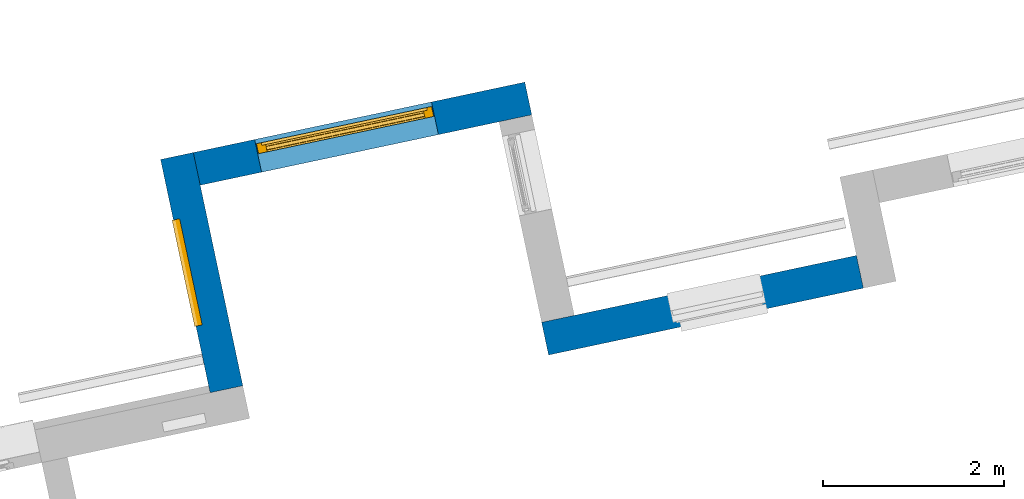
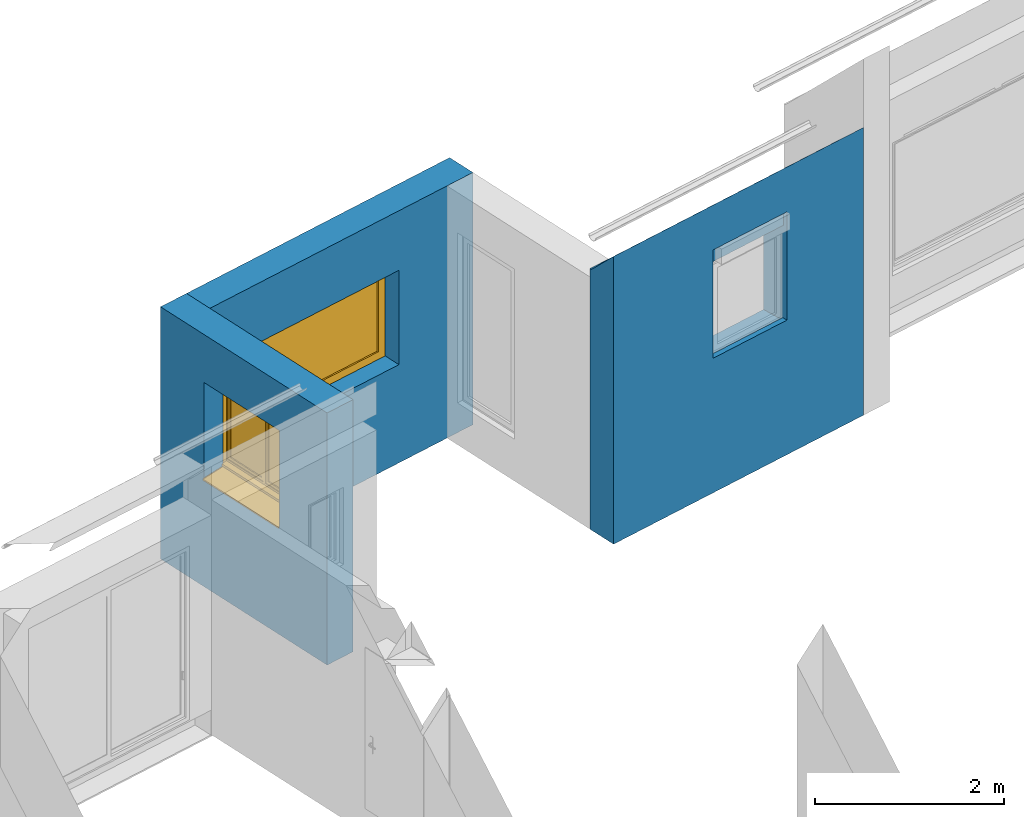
"""IFC2X3 building model written with IfcOpenShell, lengths in centimetres."""

from ifc_helpers import new_model, entity, si_unit, converted_unit, derived_unit, direction, frame, frame_2d, origin, place, context, subcontext, project, spatial, polyline, rectangle, outline, extrude, clip, bounded_halfspace, faceted_brep, source, transform, mapped, material, material_list, layer, layer_set, layer_usage, type_object, type_shapes, element, fill, save


model = new_model("IFC2X3")

# Units and contexts
model_context = context("Model", 3, precision=0.001, world=origin(), true_north=direction((6.12303176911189e-17, 1.0)))
body_context = subcontext(model_context, "Body", "Model", "MODEL_VIEW")
ifc_project = project(units=[si_unit("LENGTHUNIT", "METRE", prefix="CENTI"), si_unit("AREAUNIT", "SQUARE_METRE"), si_unit("VOLUMEUNIT", "CUBIC_METRE"), converted_unit("PLANEANGLEUNIT", "DEGREE", entity("IfcRatioMeasure", 0.0174532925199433), si_unit("PLANEANGLEUNIT", "RADIAN"), dimensions=[0, 0, 0, 0, 0, 0, 0]), si_unit("MASSUNIT", "GRAM", prefix="KILO"), derived_unit("MASSDENSITYUNIT", [(si_unit("MASSUNIT", "GRAM", prefix="KILO"), 1), (si_unit("LENGTHUNIT", "METRE"), -3)]), derived_unit("IONCONCENTRATIONUNIT", [(si_unit("MASSUNIT", "GRAM", prefix="KILO"), 1), (si_unit("LENGTHUNIT", "METRE"), -3)]), derived_unit("MOMENTOFINERTIAUNIT", [(si_unit("LENGTHUNIT", "METRE"), 4)]), si_unit("TIMEUNIT", "SECOND"), si_unit("FREQUENCYUNIT", "HERTZ"), si_unit("THERMODYNAMICTEMPERATUREUNIT", "DEGREE_CELSIUS"), derived_unit("THERMALTRANSMITTANCEUNIT", [(si_unit("MASSUNIT", "GRAM", prefix="KILO"), 1), (si_unit("THERMODYNAMICTEMPERATUREUNIT", "KELVIN"), -1), (si_unit("TIMEUNIT", "SECOND"), -3)]), derived_unit("THERMALCONDUCTANCEUNIT", [(si_unit("MASSUNIT", "GRAM", prefix="KILO"), 1), (si_unit("THERMODYNAMICTEMPERATUREUNIT", "KELVIN"), -1), (si_unit("TIMEUNIT", "SECOND"), -3), (si_unit("LENGTHUNIT", "METRE"), 1)]), derived_unit("VOLUMETRICFLOWRATEUNIT", [(si_unit("LENGTHUNIT", "METRE"), 3), (si_unit("TIMEUNIT", "SECOND"), -1)]), derived_unit("MASSFLOWRATEUNIT", [(si_unit("MASSUNIT", "GRAM", prefix="KILO"), 1), (si_unit("TIMEUNIT", "SECOND"), -1)]), derived_unit("ROTATIONALFREQUENCYUNIT", [(si_unit("TIMEUNIT", "SECOND"), -1)]), si_unit("ELECTRICCURRENTUNIT", "AMPERE"), si_unit("ELECTRICVOLTAGEUNIT", "VOLT"), si_unit("POWERUNIT", "WATT"), si_unit("FORCEUNIT", "NEWTON", prefix="KILO"), si_unit("ILLUMINANCEUNIT", "LUX"), si_unit("LUMINOUSFLUXUNIT", "LUMEN"), si_unit("LUMINOUSINTENSITYUNIT", "CANDELA"), derived_unit("USERDEFINED", [(si_unit("MASSUNIT", "GRAM", prefix="KILO"), -1), (si_unit("LENGTHUNIT", "METRE"), -2), (si_unit("TIMEUNIT", "SECOND"), 3), (si_unit("LUMINOUSFLUXUNIT", "LUMEN"), 1)]), derived_unit("USERDEFINED", [(si_unit("MASSUNIT", "GRAM", prefix="KILO"), 1), (si_unit("TIMEUNIT", "SECOND"), -3), (si_unit("LENGTHUNIT", "METRE"), 3), (si_unit("ELECTRICCURRENTUNIT", "AMPERE"), -2)]), derived_unit("SOUNDPOWERUNIT", [(si_unit("MASSUNIT", "GRAM", prefix="KILO"), 1), (si_unit("TIMEUNIT", "SECOND"), -3), (si_unit("LENGTHUNIT", "METRE"), 2)]), derived_unit("SOUNDPRESSUREUNIT", [(si_unit("MASSUNIT", "GRAM", prefix="KILO"), 1), (si_unit("LENGTHUNIT", "METRE"), -1), (si_unit("TIMEUNIT", "SECOND"), -2)]), derived_unit("LINEARVELOCITYUNIT", [(si_unit("LENGTHUNIT", "METRE"), 1), (si_unit("TIMEUNIT", "SECOND"), -1)]), si_unit("PRESSUREUNIT", "PASCAL"), derived_unit("USERDEFINED", [(si_unit("MASSUNIT", "GRAM", prefix="KILO"), 1), (si_unit("LENGTHUNIT", "METRE"), -2), (si_unit("TIMEUNIT", "SECOND"), -2)]), derived_unit("LINEARFORCEUNIT", [(si_unit("MASSUNIT", "GRAM", prefix="KILO"), 1), (si_unit("TIMEUNIT", "SECOND"), -2)]), derived_unit("PLANARFORCEUNIT", [(si_unit("MASSUNIT", "GRAM", prefix="KILO"), 1), (si_unit("LENGTHUNIT", "METRE"), -1), (si_unit("TIMEUNIT", "SECOND"), -2)]), derived_unit("SPECIFICHEATCAPACITYUNIT", [(si_unit("THERMODYNAMICTEMPERATUREUNIT", "KELVIN"), -1), (si_unit("LENGTHUNIT", "METRE"), 2), (si_unit("TIMEUNIT", "SECOND"), -2)]), derived_unit("HEATINGVALUEUNIT", [(si_unit("LENGTHUNIT", "METRE"), 2), (si_unit("TIMEUNIT", "SECOND"), -2)]), derived_unit("VAPORPERMEABILITYUNIT", [(si_unit("LENGTHUNIT", "METRE"), -1), (si_unit("TIMEUNIT", "SECOND"), 1)]), derived_unit("DYNAMICVISCOSITYUNIT", [(si_unit("MASSUNIT", "GRAM", prefix="KILO"), 1), (si_unit("TIMEUNIT", "SECOND"), -1), (si_unit("LENGTHUNIT", "METRE"), -1)]), derived_unit("THERMALEXPANSIONCOEFFICIENTUNIT", [(si_unit("THERMODYNAMICTEMPERATUREUNIT", "KELVIN"), -1)]), derived_unit("MODULUSOFELASTICITYUNIT", [(si_unit("MASSUNIT", "GRAM", prefix="KILO"), 1), (si_unit("LENGTHUNIT", "METRE"), -1), (si_unit("TIMEUNIT", "SECOND"), -2)]), derived_unit("ISOTHERMALMOISTURECAPACITYUNIT", [(si_unit("LENGTHUNIT", "METRE"), 3), (si_unit("MASSUNIT", "GRAM", prefix="KILO"), -1)]), derived_unit("MOISTUREDIFFUSIVITYUNIT", [(si_unit("TIMEUNIT", "SECOND"), -1), (si_unit("LENGTHUNIT", "METRE"), 2)])], contexts=[model_context])

# Site, building, storey
site_placement = place(None, frame((14083.8920177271, -6853.25409548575, 6900.0), z_axis=(0.0, 0.0, 1.0), x_axis=(0.978188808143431, 0.207717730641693, 0.0)))
site = spatial("IfcSite", under=ifc_project, at=site_placement, Name="Surface", CompositionType="ELEMENT")
building_placement = place(site_placement, origin())
building = spatial("IfcBuilding", under=site, at=building_placement, CompositionType="ELEMENT")
storey_1_placement = place(building_placement, frame((0.0, 0.0, -17.0)))
storey_1 = spatial("IfcBuildingStorey", under=building, at=storey_1_placement, Name="Rez de chaussée (SD)", CompositionType="ELEMENT", Elevation=-16.9999999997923)

# Wall, opening
ifc_material_1 = material(Name="__ ENDUIT_Blanc")
ifc_layer_1 = layer(ifc_material_1, 2.0)
ifc_material_2 = material(Name="__ BETON_parpaings")
ifc_layer_2 = layer(ifc_material_2, 20.0)
ifc_material_3 = material(Name="__ ISOLANT (pat 1)")
ifc_layer_3 = layer(ifc_material_3, 13.0)
ifc_layer_4 = layer(ifc_material_1, 2.0)
ifc_layer_set = layer_set([ifc_layer_1, ifc_layer_2, ifc_layer_3, ifc_layer_4], Name="Mur de base:*BRIQUE 37 (20 +INT 13+2 + EXT 2) (Iso+BA13)(enduit)")
ifc_layer_usage = layer_usage(ifc_layer_set, "AXIS2", "NEGATIVE", 18.5)
wall_type = type_object("IfcWallType", Name="Mur de base:*BRIQUE 37 (20 +INT 13+2 + EXT 2) (Iso+BA13)(enduit)", PredefinedType="STANDARD", material=ifc_layer_set)
wall_1_placement = place(storey_1_placement, frame((-7163.9551432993, 15432.4391445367, -20.0)))
wall_1 = element("IfcWallStandardCase", 1, at=wall_1_placement, inside=storey_1, type_object=wall_type, material=ifc_layer_usage, Name="Mur de base:*BRIQUE 37 (20 +INT 13+2 + EXT 2) (Iso+BA13)(enduit)", ObjectType="Mur de base:*BRIQUE 37 (20 +INT 13+2 + EXT 2) (Iso+BA13)(enduit)", context=body_context, shape_type="Clipping", body=[
    clip(clip(extrude(rectangle(XDim=356.000000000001, YDim=37.0000000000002, at=frame_2d((178.0, -8.66862137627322e-13), x_axis=(-1.0, 0.0))), origin(), (0.0, 0.0, 1.0), 371.999999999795), bounded_halfspace(frame((0.0, -18.500000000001, 372.0), z_axis=(0.0, 0.707106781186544, 0.707106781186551), x_axis=(-1.0, 0.0, 0.0)), False, frame((0.0, -18.500000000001, 372.0)), polyline([(0.0, 0.0), (356.0, 0.0), (356.0, 34.6740981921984), (0.0, 34.6740981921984), (0.0, 0.0)]))), bounded_halfspace(frame((356.0, 18.4999999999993, 337.325901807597), z_axis=(0.0, 0.0, -1.0), x_axis=(-1.0, 0.0, 0.0)), True, frame((356.0, 18.4999999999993, 337.325901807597)), polyline([(0.0, 0.0), (-356.0, 0.0), (-356.0, -2.32590180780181), (0.0, -2.32590180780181), (0.0, 0.0)]))),
])
opening_1_placement = place(wall_1_placement, frame((142.0, -23.4999999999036, 168.385044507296)))
element("IfcOpeningElement", 2, at=opening_1_placement, cuts=wall_1, Name="Mur de base:*BRIQUE 37 (20 +INT 13+2 + EXT 2) (Iso+BA13)(enduit)", ObjectType="Opening", context=body_context, shape_type="Brep", body=[
    faceted_brep([(0.0, 0.0, 145.614955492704), (105.0, 0.0, 145.614955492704), (105.0, 10.2999999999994, 145.614955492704), (0.0, 10.2999999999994, 145.614955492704), (0.0, 0.0, 125.614955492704), (0.0, 5.0, 125.614955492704), (105.0, 5.0, 125.614955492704), (105.0, 0.0, 125.614955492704), (0.0, 5.0, 5.61495549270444), (105.0, 5.0, 5.61495549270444), (0.0, 42.0, 125.614955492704), (105.0, 42.0, 125.614955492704), (105.0, 42.0, 5.61495549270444), (0.0, 42.0, 5.61495549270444), (0.0, 10.2999999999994, 125.614955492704), (0.0, 44.500000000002, 5.61495549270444), (0.0, 44.500000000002, 0.0), (0.0, 13.9974883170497, 2.11559678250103), (0.0, 11.5000000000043, 2.11559678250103), (0.0, 11.5000000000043, 5.61495549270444), (105.0, 11.500000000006, 5.61495549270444), (105.0, 11.500000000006, 2.11559678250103), (105.0, 13.9974883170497, 2.11559678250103), (105.0, 44.500000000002, 0.0), (105.0, 44.500000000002, 5.61495549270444), (105.0, 30.3, 125.614955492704), (105.0, 30.3, 125.714955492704), (105.0, 30.2000000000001, 125.714955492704), (105.0, 30.2000000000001, 125.614955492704), (105.0, 10.2999999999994, 125.614955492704), (104.9, 30.2000000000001, 125.614955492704), (104.9, 30.3, 125.614955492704), (104.9, 30.2000000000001, 125.714955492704), (104.9, 30.3, 125.714955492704)], [[[0, 1, 2, 3]], [[4, 5, 6, 7]], [[4, 7, 1, 0]], [[6, 5, 8, 9]], [[10, 11, 12, 13]], [[5, 4, 0, 3, 14, 10, 13, 15, 16, 17, 18, 19, 8]], [[8, 19, 20, 9]], [[9, 20, 21, 22, 23, 24, 12, 11, 25, 26, 27, 28, 29, 2, 1, 7, 6]], [[10, 14, 29, 28, 30, 31, 25, 11]], [[17, 22, 21, 18]], [[18, 21, 20, 19]], [[15, 13, 12, 24]], [[15, 24, 23, 16]], [[16, 23, 22, 17]], [[32, 33, 31, 30]], [[32, 27, 26, 33]], [[33, 26, 25, 31]], [[30, 28, 27, 32]], [[3, 2, 29, 14]]]),
])

wall_2_placement = place(storey_1_placement, frame((-7501.79714756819, 15696.1673447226, -20.0)))
wall_2 = element("IfcWallStandardCase", 3, at=wall_2_placement, inside=storey_1, type_object=wall_type, material=ifc_layer_usage, Name="Mur de base:*BRIQUE 37 (20 +INT 13+2 + EXT 2) (Iso+BA13)(enduit)", ObjectType="Mur de base:*BRIQUE 37 (20 +INT 13+2 + EXT 2) (Iso+BA13)(enduit)", context=body_context, shape_type="SweptSolid", body=[
    extrude(rectangle(XDim=374.842004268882, YDim=37.000000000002, at=frame_2d((187.421002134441, 0.0), x_axis=(-1.0, 0.0))), origin(), (0.0, 0.0, 1.0), 325.999999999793),
])
opening_2_placement = place(wall_2_placement, frame((269.342004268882, 18.500000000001, 127.0)))
opening_2 = element("IfcOpeningElement", 4, at=opening_2_placement, cuts=wall_2, Name="OPTIMAL Top Turn Single Window-1:200x120 PVC:1", ObjectType="Opening", context=body_context, shape_type="SweptSolid", body=[
    extrude(rectangle(XDim=122.0, YDim=200.0, at=frame_2d((61.0, 99.9999999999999), x_axis=(1.0, 0.0))), frame((0.0, 0.0, 0.0), z_axis=(0.0, -1.0, 0.0), x_axis=(0.0, 0.0, 1.0)), (0.0, 0.0, 1.0), 37.0),
])

# Storey
storey_2_placement = place(building_placement, origin())
storey_2 = spatial("IfcBuildingStorey", under=building, at=storey_2_placement, Name="_Rez de chaussée Séjour", CompositionType="ELEMENT", Elevation=2.07727662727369e-10)

# Window
ifc_material_4 = material(Name="Fenêtre - Vitrage")
ifc_material_5 = material(Name="PVC - Blanc")
ifc_material_list_1 = material_list([ifc_material_4, ifc_material_5])
window_style_1 = type_object("IfcWindowStyle", Name="OPTIMAL Top Turn Single Window-1:200x120 PVC", ConstructionType="NOTDEFINED", OperationType="NOTDEFINED", ParameterTakesPrecedence=False, Sizeable=False, material=ifc_material_list_1)
shared_shape_1 = source(origin(), body_context, "Body", "SweptSolid", [
    extrude(rectangle(XDim=0.399999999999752, YDim=178.6, at=frame_2d((0.0, 7.105427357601e-15), x_axis=(1.0, 0.0))), frame((100.0, 10.1000000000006, 10.7000000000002), z_axis=(0.0, 0.0, 1.0), x_axis=(0.0, 1.0, 0.0)), (0.0, 0.0, 1.0), 100.6),
    extrude(rectangle(XDim=0.399999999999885, YDim=178.6, at=frame_2d((0.0, -7.105427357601e-15), x_axis=(1.0, 0.0))), frame((100.0, 14.1000000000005, 10.7000000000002), z_axis=(0.0, 0.0, 1.0), x_axis=(0.0, 1.0, 0.0)), (0.0, 0.0, 1.0), 100.6),
    extrude(outline(polyline([(-54.5, -93.5), (54.5, -93.5), (54.4999999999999, 93.5000000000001), (-54.5, 93.5), (-54.5, -93.5)]), holes=[polyline([(50.3, -89.3), (-50.2999999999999, -89.3), (-50.3, 89.3), (50.2999999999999, 89.3), (50.3, -89.3)])]), frame((100.0, 8.0, 61.0), z_axis=(0.0, 1.0, 0.0), x_axis=(0.0, 0.0, 1.0)), (0.0, 0.0, 1.0), 8.20000000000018),
    extrude(outline(polyline([(-60.0, -99.0), (60.0, -99.0), (60.0, 99.0), (-60.0, 99.0), (-60.0, -99.0)]), holes=[polyline([(54.5, -93.5), (-54.5, -93.5), (-54.5000000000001, 93.5), (54.5, 93.5), (54.5, -93.5)])]), frame((100.0, 5.0, 61.0), z_axis=(0.0, 1.0, 0.0), x_axis=(0.0, 0.0, 1.0)), (0.0, 0.0, 1.0), 11.2000000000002),
])
type_shapes(window_style_1, [shared_shape_1])
window_1_placement = place(opening_2_placement, frame((0.0, 0.0, 0.0), z_axis=(0.0, 0.0, 1.0), x_axis=(-1.0, 0.0, 0.0)))
window_1 = element("IfcWindow", 5, at=window_1_placement, inside=storey_2, type_object=window_style_1, material=ifc_material_list_1, Name="OPTIMAL Top Turn Single Window-1:200x120 PVC", ObjectType="OPTIMAL Top Turn Single Window-1:200x120 PVC", OverallHeight=122.0, OverallWidth=200.0, context=body_context, shape_type="MappedRepresentation", body=[
    mapped(shared_shape_1, transform((0.0, 0.0, 0.0), scale=1.0)),
])

fill(opening_2, window_1)

# Wall, opening
wall_3_placement = place(storey_1_placement, frame((-7520.29714756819, 15450.9391445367, -20.0), z_axis=(0.0, 0.0, 1.0), x_axis=(0.0, 1.0, 0.0)))
wall_3 = element("IfcWallStandardCase", 6, at=wall_3_placement, inside=storey_1, type_object=wall_type, material=ifc_layer_usage, Name="Mur de base:*BRIQUE 37 (20 +INT 13+2 + EXT 2) (Iso+BA13)(enduit)", ObjectType="Mur de base:*BRIQUE 37 (20 +INT 13+2 + EXT 2) (Iso+BA13)(enduit)", context=body_context, shape_type="SweptSolid", body=[
    extrude(rectangle(XDim=263.728200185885, YDim=37.0000000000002, at=frame_2d((131.864100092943, -2.20268248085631e-13), x_axis=(-1.0, 0.0))), origin(), (0.0, 0.0, 1.0), 325.999999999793),
])
opening_3_placement = place(wall_3_placement, frame((70.2282001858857, 50.0, 136.141193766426), z_axis=(0.0, 0.0, 1.0), x_axis=(0.0, -1.0, 0.0)))
opening_3 = element("IfcOpeningElement", 7, at=opening_3_placement, cuts=wall_3, Name="Mur de base:*BRIQUE 37 (20 +INT 13+2 + EXT 2) (Iso+BA13)(enduit)", ObjectType="Opening", context=body_context, shape_type="Brep", body=[
    faceted_brep([(60.5000000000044, 5.0, 7.85880623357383), (58.4999999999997, 5.0, 7.85880623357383), (58.4999999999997, 5.0, 127.858806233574), (0.0, 5.0, 127.858806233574), (0.0, 5.0, 0.0), (60.5000000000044, 5.0, 6.35880623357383), (100.0, 125.0, 7.85880623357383), (68.5, 125.0, 7.85880623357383), (68.5, 125.0, 127.858806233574), (100.0, 125.0, 127.858806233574), (100.0, 5.0, 7.85880623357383), (68.5, 5.0, 7.85880623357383), (68.5, 0.0, 7.85880623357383), (63.5000000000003, 0.0, 7.85880623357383), (63.5000000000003, 4.0, 7.85880623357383), (58.4999999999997, 4.0, 7.85880623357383), (60.5000000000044, 125.0, 7.85880623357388), (58.4999999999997, 125.0, 7.85880623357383), (58.4999999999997, 126.0, 7.85880623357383), (63.5000000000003, 126.0, 7.85880623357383), (63.5000000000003, 130.0, 7.85880623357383), (68.5, 130.0, 7.85880623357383), (100.0, 5.0, 127.858806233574), (58.4999999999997, 125.0, 127.858806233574), (0.0, 125.0, 127.858806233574), (0.0, 125.0, 0.0), (60.5000000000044, 125.0, 6.35880623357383), (68.5, 0.0, 132.858806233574), (63.5000000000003, 0.0, 132.858806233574), (63.5000000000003, 130.0, 132.858806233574), (63.5000000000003, 126.0, 128.858806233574), (63.5000000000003, 4.0, 128.858806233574), (58.4999999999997, 4.0, 128.858806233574), (58.4999999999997, 126.0, 128.858806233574), (68.5, 5.0, 127.858806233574), (68.5, 130.0, 132.858806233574)], [[[0, 1, 2, 3, 4, 5]], [[6, 7, 8, 9]], [[10, 11, 12, 13, 14, 15, 1, 0, 16, 17, 18, 19, 20, 21, 7, 6]], [[10, 6, 9, 22]], [[3, 2, 23, 24]], [[3, 24, 25, 4]], [[4, 25, 26, 5]], [[5, 26, 16, 0]], [[12, 27, 28, 13]], [[13, 28, 29, 20, 19, 30, 31, 14]], [[14, 31, 32, 15]], [[15, 32, 33, 18, 17, 23, 2, 1]], [[11, 34, 8, 7, 21, 35, 27, 12]], [[27, 35, 29, 28]], [[30, 33, 32, 31]], [[29, 35, 21, 20]], [[19, 18, 33, 30]], [[9, 8, 34, 22]], [[24, 23, 17, 16, 26, 25]], [[22, 34, 11, 10]]]),
])

# Storey
storey_3_placement = place(building_placement, frame((0.0, 0.0, 17.0)))
storey_3 = spatial("IfcBuildingStorey", under=building, at=storey_3_placement, Name="Rez de chaussée", CompositionType="ELEMENT", Elevation=17.0000000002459)

# Window
ifc_material_6 = material(Name="Fenêtre - Poignée")
ifc_material_7 = material(Name="Fenêtre - Appui")
ifc_material_8 = material(Name="Fenêtre - Cadre")
ifc_material_list_2 = material_list([ifc_material_6, ifc_material_7, ifc_material_8, ifc_material_4])
window_style_2 = type_object("IfcWindowStyle", Name="2 Vantaux - Droits:120x120", ConstructionType="NOTDEFINED", OperationType="DOUBLE_PANEL_VERTICAL", ParameterTakesPrecedence=False, Sizeable=False, material=ifc_material_list_2)
shared_shape_2 = source(origin(), body_context, "Body", "Brep", [
    faceted_brep([(68.0646009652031, -69.100000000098, 70.0621991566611), (68.2033929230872, -69.100000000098, 69.9234071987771), (68.2033929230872, -69.100000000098, 68.7920363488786), (68.0667698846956, -69.100000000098, 68.655413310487), (66.9332301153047, -69.100000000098, 68.655413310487), (66.7966070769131, -69.100000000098, 68.7920363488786), (66.7966070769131, -69.100000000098, 69.9234071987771), (66.9353990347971, -69.100000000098, 70.0621991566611), (68.0646009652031, -70.3913548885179, 70.0621991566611), (68.2033929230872, -70.333865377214, 69.9234071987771), (68.2033929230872, -71.664600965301, 68.5926716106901), (68.2033929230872, -71.664600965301, 59.8588062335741), (68.2033929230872, -70.5332301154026, 59.8588062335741), (68.2033929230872, -70.5332301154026, 68.1240424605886), (68.2033929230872, -69.8652362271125, 68.7920363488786), (68.0667698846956, -69.8086451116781, 68.655413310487), (66.9332301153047, -69.8086451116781, 68.655413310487), (66.7966070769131, -69.8652362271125, 68.7920363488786), (66.7966070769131, -70.5332301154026, 68.1240424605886), (66.7966070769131, -70.5332301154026, 59.8588062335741), (66.7966070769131, -71.664600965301, 59.8588062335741), (66.7966070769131, -71.664600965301, 68.5926716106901), (66.7966070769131, -70.333865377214, 69.9234071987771), (66.9353990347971, -70.3913548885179, 70.0621991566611), (68.0646009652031, -71.8033929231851, 68.650161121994), (68.0667698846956, -70.396607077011, 68.0674513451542), (66.9332301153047, -70.396607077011, 68.0674513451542), (66.9353990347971, -71.803392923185, 68.650161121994), (68.0646009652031, -71.8033929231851, 59.8588062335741), (66.9353990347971, -71.8033929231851, 59.8588062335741), (66.9332301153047, -70.396607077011, 59.8588062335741), (68.0667698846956, -70.396607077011, 59.8588062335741)], [[[0, 1, 2, 3, 4, 5, 6, 7]], [[1, 0, 8, 9]], [[2, 1, 9, 10, 11, 12, 13, 14]], [[3, 2, 14, 15]], [[4, 3, 15, 16]], [[5, 4, 16, 17]], [[6, 5, 17, 18, 19, 20, 21, 22]], [[7, 6, 22, 23]], [[0, 7, 23, 8]], [[9, 8, 24, 10]], [[15, 14, 13, 25]], [[16, 15, 25, 26]], [[17, 16, 26, 18]], [[23, 22, 21, 27]], [[8, 23, 27, 24]], [[28, 29, 20, 19, 30, 31, 12, 11]], [[10, 24, 28, 11]], [[25, 13, 12, 31]], [[26, 25, 31, 30]], [[18, 26, 30, 19]], [[27, 21, 20, 29]], [[24, 27, 29, 28]]]),
    faceted_brep([(68.2000000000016, -69.1000000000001, 71.8588062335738), (66.8, -69.1000000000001, 71.8588062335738), (66.3, -69.1000000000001, 71.3588062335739), (66.3, -69.1000000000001, 64.3588062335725), (66.7999999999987, -69.1000000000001, 63.8588062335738), (68.2000000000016, -69.1000000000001, 63.8588062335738), (68.7000000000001, -69.1000000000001, 64.3588062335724), (68.7000000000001, -69.1000000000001, 71.3588062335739), (68.2000000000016, -68.5000000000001, 71.8588062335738), (68.7000000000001, -68.5000000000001, 71.3588062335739), (68.7000000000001, -68.5000000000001, 64.3588062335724), (68.2000000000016, -68.5000000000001, 63.8588062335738), (66.7999999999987, -68.5000000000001, 63.8588062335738), (66.3, -68.5000000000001, 64.3588062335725), (66.3, -68.5000000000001, 71.3588062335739), (66.8, -68.5000000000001, 71.8588062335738)], [[[0, 1, 2, 3, 4, 5, 6, 7]], [[8, 9, 10, 11, 12, 13, 14, 15]], [[1, 0, 8, 15]], [[2, 1, 15, 14]], [[3, 2, 14, 13]], [[4, 3, 13, 12]], [[5, 4, 12, 11]], [[6, 5, 11, 10]], [[7, 6, 10, 9]], [[0, 7, 9, 8]]]),
    faceted_brep([(125.0, -30.0, 3.67864823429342), (125.0, -60.0, 6.83177529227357), (125.0, -60.0, 7.85880623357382), (125.0, -60.4999999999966, 7.85880623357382), (125.0, -60.4999999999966, 6.35880623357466), (125.0, -30.4999999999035, 3.2056791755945), (125.0, -30.4999999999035, 2.17562870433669), (125.0, -30.0, 2.12307658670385), (5.0, -30.0, 3.67864823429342), (5.0, -30.0, 2.12307658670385), (5.0, -30.4999999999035, 2.17562870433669), (5.0, -30.4999999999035, 3.2056791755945), (5.0, -60.4999999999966, 6.35880623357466), (5.0, -60.4999999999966, 7.85880623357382), (5.0, -60.0, 7.85880623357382), (5.0, -60.0, 6.83177529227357)], [[[0, 1, 2, 3, 4, 5, 6, 7]], [[8, 9, 10, 11, 12, 13, 14, 15]], [[1, 0, 8, 15]], [[2, 1, 15, 14]], [[3, 2, 14, 13]], [[4, 3, 13, 12]], [[5, 4, 12, 11]], [[6, 5, 11, 10]], [[7, 6, 10, 9]], [[0, 7, 9, 8]]]),
    faceted_brep([(5.0, -30.0, 3.82124075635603), (5.0, -30.0, 3.67864823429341), (5.0, -60.0, 6.83177529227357), (5.0, -60.0, 7.33452943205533), (5.0, -30.3581886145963, 4.21904951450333), (5.0, -30.1027420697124, 4.08889299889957), (5.49999999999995, -60.0, 7.33452943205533), (5.49999999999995, -60.0, 6.83177529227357), (5.5, -30.0, 3.67864823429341), (5.5, -30.0, 3.82124075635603), (5.5, -30.1027420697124, 4.08889299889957), (5.5, -30.3581886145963, 4.21904951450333)], [[[0, 1, 2, 3, 4, 5]], [[6, 7, 8, 9, 10, 11]], [[2, 1, 8, 7]], [[3, 2, 7, 6]], [[4, 3, 6, 11]], [[4, 11, 10, 5]], [[10, 9, 0, 5]], [[1, 0, 9, 8]]]),
    faceted_brep([(124.5, -30.0, 3.82124075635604), (124.5, -30.0, 3.67864823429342), (124.5, -60.0, 6.83177529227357), (124.5, -60.0, 7.33452943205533), (124.5, -30.3581886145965, 4.21904951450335), (124.5, -30.1027420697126, 4.08889299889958), (125.0, -60.0, 7.33452943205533), (125.0, -60.0, 6.83177529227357), (125.0, -30.0, 3.67864823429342), (125.0, -30.0, 3.82124075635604), (125.0, -30.1027420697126, 4.08889299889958), (125.0, -30.3581886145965, 4.21904951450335)], [[[0, 1, 2, 3, 4, 5]], [[6, 7, 8, 9, 10, 11]], [[2, 1, 8, 7]], [[3, 2, 7, 6]], [[4, 3, 6, 11]], [[4, 11, 10, 5]], [[10, 9, 0, 5]], [[1, 0, 9, 8]]]),
    faceted_brep([(65.0, -64.4999999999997, 127.858806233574), (65.0, -68.499999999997, 127.858806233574), (65.0, -68.499999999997, 12.8588062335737), (65.0, -64.4999999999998, 12.8588062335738), (5.0, -68.4999999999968, 12.8588062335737), (5.0, -64.4999999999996, 12.8588062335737), (5.0, -68.4999999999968, 127.858806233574), (10.0, -68.4999999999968, 17.8588062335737), (10.0, -68.4999999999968, 122.858806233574), (60.0, -68.499999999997, 122.858806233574), (60.0, -68.499999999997, 17.8588062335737), (5.0, -64.4999999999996, 127.858806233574), (60.0, -64.4999999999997, 17.8588062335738), (60.0, -64.4999999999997, 122.858806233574), (10.0, -64.4999999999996, 122.858806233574), (10.0, -64.4999999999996, 17.8588062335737)], [[[0, 1, 2, 3]], [[3, 2, 4, 5]], [[2, 1, 6, 4], [7, 8, 9, 10]], [[5, 4, 6, 11]], [[5, 11, 0, 3], [12, 13, 14, 15]], [[9, 13, 12, 10]], [[10, 12, 15, 7]], [[7, 15, 14, 8]], [[11, 6, 1, 0]], [[8, 14, 13, 9]]]),
    faceted_brep([(70.0, -65.9000000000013, 17.8588062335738), (70.0, -65.9000000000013, 122.858806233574), (120.0, -65.9000000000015, 122.858806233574), (120.0, -65.9000000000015, 17.8588062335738), (70.0, -67.1000000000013, 17.8588062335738), (70.0, -67.1000000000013, 122.858806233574), (120.0, -67.1000000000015, 122.858806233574), (120.0, -67.1000000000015, 17.8588062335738)], [[[0, 1, 2, 3]], [[1, 0, 4, 5]], [[3, 2, 6, 7]], [[0, 3, 7, 4]], [[2, 1, 5, 6]], [[4, 7, 6, 5]]]),
    faceted_brep([(60.0, -65.9000000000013, 17.8588062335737), (60.0, -65.9000000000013, 122.858806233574), (60.0, -67.1000000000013, 122.858806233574), (60.0, -67.1000000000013, 17.8588062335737), (10.0, -65.9000000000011, 17.8588062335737), (10.0, -67.1000000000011, 17.8588062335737), (10.0, -65.9000000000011, 122.858806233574), (10.0, -67.1000000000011, 122.858806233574)], [[[0, 1, 2, 3]], [[4, 0, 3, 5]], [[6, 4, 5, 7]], [[7, 5, 3, 2]], [[1, 6, 7, 2]], [[6, 1, 0, 4]]]),
    faceted_brep([(70.0, -64.5000000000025, 122.858806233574), (70.0, -68.5000000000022, 122.858806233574), (70.0, -68.5000000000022, 17.8588062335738), (70.0, -64.5000000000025, 17.8588062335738), (120.0, -68.5000000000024, 17.8588062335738), (120.0, -64.5000000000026, 17.8588062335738), (120.0, -68.5000000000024, 122.858806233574), (125.0, -68.5000000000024, 12.8588062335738), (125.0, -68.5000000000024, 127.858806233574), (65.0, -68.5000000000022, 127.858806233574), (65.0, -68.5000000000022, 12.8588062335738), (120.0, -64.5000000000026, 122.858806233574), (65.0, -64.5000000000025, 12.8588062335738), (65.0, -64.5000000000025, 127.858806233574), (125.0, -64.5000000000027, 127.858806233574), (125.0, -64.5000000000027, 12.8588062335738)], [[[0, 1, 2, 3]], [[3, 2, 4, 5]], [[2, 1, 6, 4], [7, 8, 9, 10]], [[5, 4, 6, 11]], [[5, 11, 0, 3], [12, 13, 14, 15]], [[9, 13, 12, 10]], [[10, 12, 15, 7]], [[7, 15, 14, 8]], [[11, 6, 1, 0]], [[8, 14, 13, 9]]], outer=[[True], [True], [False, True], [True], [False, True], [True], [True], [True], [True], [True]]),
    faceted_brep([(0.0, -68.5000000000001, 7.85880623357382), (0.0, -63.5000000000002, 7.85880623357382), (5.0, -63.5000000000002, 7.85880623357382), (5.0, -58.5000000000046, 7.85880623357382), (125.0, -58.5000000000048, 7.85880623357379), (125.0, -63.5000000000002, 7.85880623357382), (130.0, -63.5000000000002, 7.85880623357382), (130.0, -68.5000000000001, 7.85880623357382), (0.0, -68.5000000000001, 132.858806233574), (0.0, -63.5000000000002, 132.858806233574), (130.0, -63.5000000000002, 132.858806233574), (125.0, -63.5000000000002, 11.7964204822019), (5.0, -63.5000000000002, 11.7964204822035), (6.49999999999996, -63.5000000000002, 126.358806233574), (6.49999999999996, -63.5000000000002, 14.3588062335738), (123.5, -63.5000000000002, 14.3588062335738), (123.5, -63.5000000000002, 126.358806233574), (5.0, -57.5000000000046, 10.1887253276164), (5.0, -57.5000000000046, 7.35880623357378), (5.0, -58.5000000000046, 7.35880623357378), (125.0, -58.5000000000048, 7.35880623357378), (125.0, -57.5000000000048, 7.35880623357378), (125.0, -57.5000000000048, 10.1887253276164), (130.0, -68.5000000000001, 132.858806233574), (125.0, -68.5000000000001, 127.858806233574), (125.0, -68.5000000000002, 12.8588062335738), (5.0, -68.5000000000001, 12.8588062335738), (5.0, -68.5000000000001, 127.858806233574), (6.49999999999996, -64.5000000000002, 126.358806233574), (6.49999999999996, -64.5000000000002, 14.3588062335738), (123.5, -64.5000000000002, 14.3588062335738), (123.5, -64.5000000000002, 126.358806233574), (125.0, -64.5000000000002, 127.858806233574), (5.0, -64.5000000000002, 127.858806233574), (5.0, -64.5000000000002, 12.8588062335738), (125.0, -64.5000000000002, 12.8588062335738)], [[[0, 1, 2, 3, 4, 5, 6, 7]], [[1, 0, 8, 9]], [[1, 9, 10, 6, 5, 11, 12, 2], [13, 14, 15, 16]], [[12, 17, 18, 19, 3, 2]], [[3, 19, 20, 4]], [[4, 20, 21, 22, 11, 5]], [[6, 10, 23, 7]], [[0, 7, 23, 8], [24, 25, 26, 27]], [[13, 28, 29, 14]], [[29, 30, 15, 14]], [[31, 16, 15, 30]], [[17, 12, 11, 22]], [[32, 33, 34, 35], [28, 31, 30, 29]], [[34, 33, 27, 26]], [[26, 25, 35, 34]], [[24, 32, 35, 25]], [[18, 17, 22, 21]], [[19, 18, 21, 20]], [[13, 16, 31, 28]], [[33, 32, 24, 27]], [[10, 9, 8, 23]]]),
    faceted_brep([(5.0, -58.5, 7.85880623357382), (5.0, -63.5000000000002, 7.85880623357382), (4.0, -63.5000000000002, 7.85880623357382), (4.0, -58.5, 7.85880623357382), (5.0, -58.5, 127.858806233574), (5.0, -63.5000000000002, 127.858806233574), (125.0, -63.5000000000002, 127.858806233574), (125.0, -63.5000000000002, 7.85880623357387), (126.0, -63.5000000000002, 7.85880623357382), (126.0, -63.5000000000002, 128.858806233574), (4.0, -63.5000000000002, 128.858806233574), (4.0, -58.5, 128.858806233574), (126.0, -58.5, 128.858806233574), (126.0, -58.5, 7.85880623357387), (125.0, -58.5, 7.85880623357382), (125.0, -58.5, 127.858806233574)], [[[0, 1, 2, 3]], [[1, 0, 4, 5]], [[2, 1, 5, 6, 7, 8, 9, 10]], [[3, 2, 10, 11]], [[0, 3, 11, 12, 13, 14, 15, 4]], [[6, 15, 14, 7]], [[14, 13, 8, 7]], [[12, 9, 8, 13]], [[5, 4, 15, 6]], [[11, 10, 9, 12]]]),
    faceted_brep([(67.0, -63.7000000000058, 126.358806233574), (63.0, -63.7000000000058, 126.358806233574), (63.0, -64.5000000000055, 126.358806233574), (67.0, -64.5000000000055, 126.358806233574), (67.0, -63.7000000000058, 14.3588062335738), (67.0, -64.5000000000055, 14.3588062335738), (63.0, -64.5000000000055, 14.3588062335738), (63.0, -63.7000000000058, 14.3588062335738)], [[[0, 1, 2, 3]], [[4, 5, 6, 7]], [[1, 0, 4, 7]], [[2, 1, 7, 6]], [[3, 2, 6, 5]], [[0, 3, 5, 4]]]),
])
type_shapes(window_style_2, [shared_shape_2])
window_2_placement = place(opening_3_placement, frame((0.0, 0.0, 0.0), z_axis=(0.0, 0.0, 1.0), x_axis=(0.0, 1.0, 0.0)))
window_2 = element("IfcWindow", 8, at=window_2_placement, inside=storey_3, type_object=window_style_2, material=ifc_material_list_2, Name="2 Vantaux - Droits:120x120", ObjectType="2 Vantaux - Droits:120x120", OverallHeight=205.0, OverallWidth=130.0, context=body_context, shape_type="MappedRepresentation", body=[
    mapped(shared_shape_2, transform((0.0, 0.0, 0.0), scale=1.0)),
])

fill(opening_3, window_2)

save(model, "model.ifc")
